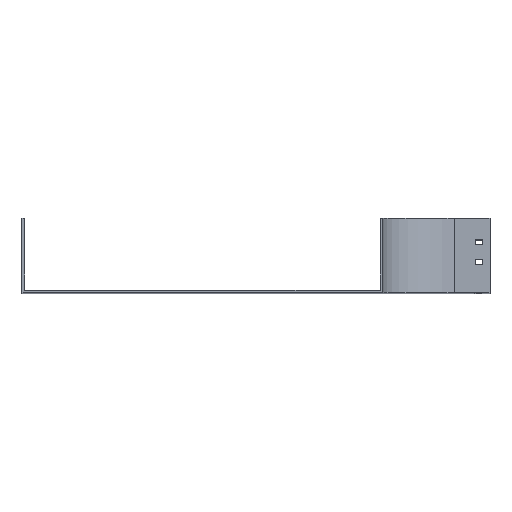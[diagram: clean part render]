
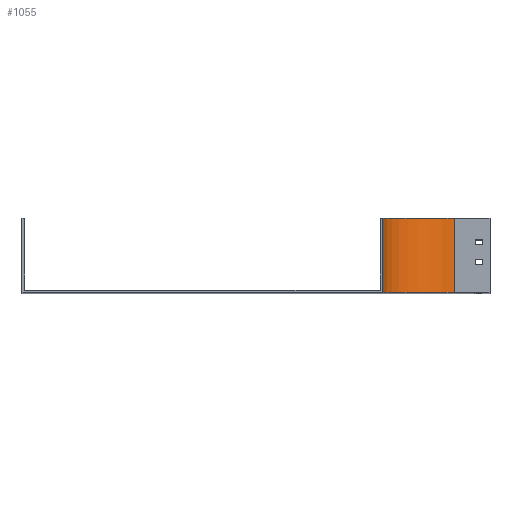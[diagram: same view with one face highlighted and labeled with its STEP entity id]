
A CAD part, top view. The second image highlights one B-rep face of the part: STEP entity #1055.
In plain terms, the highlighted cylindrical face has radius 100 mm (diameter 200 mm), a partial arc.
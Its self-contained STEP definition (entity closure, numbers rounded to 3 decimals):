
#2 = AXIS2_PLACEMENT_3D ( 'NONE', #1598, #2043, #2633 ) ;
#11 = VERTEX_POINT ( 'NONE', #1681 ) ;
#176 = CARTESIAN_POINT ( 'NONE',  ( 0., 104., -100. ) ) ;
#181 = CIRCLE ( 'NONE', #554, 100. ) ;
#198 = VERTEX_POINT ( 'NONE', #812 ) ;
#318 = ORIENTED_EDGE ( 'NONE', *, *, #1105, .T. ) ;
#352 = DIRECTION ( 'NONE',  ( 0., -1., 0. ) ) ;
#404 = VECTOR ( 'NONE', #2225, 1000. ) ;
#455 = EDGE_CURVE ( 'NONE', #2181, #198, #1666, .T. ) ;
#533 = LINE ( 'NONE', #2427, #404 ) ;
#554 = AXIS2_PLACEMENT_3D ( 'NONE', #2304, #352, #1443 ) ;
#633 = ORIENTED_EDGE ( 'NONE', *, *, #455, .T. ) ;
#751 = EDGE_CURVE ( 'NONE', #11, #198, #1742, .T. ) ;
#770 = CARTESIAN_POINT ( 'NONE',  ( -100., 0., 0. ) ) ;
#808 = CYLINDRICAL_SURFACE ( 'NONE', #1889, 100. ) ;
#812 = CARTESIAN_POINT ( 'NONE',  ( 0., 0., -100. ) ) ;
#860 = ORIENTED_EDGE ( 'NONE', *, *, #1650, .F. ) ;
#1046 = FACE_OUTER_BOUND ( 'NONE', #1532, .T. ) ;
#1055 = ADVANCED_FACE ( 'NONE', ( #1046 ), #808, .F. ) ;
#1105 = EDGE_CURVE ( 'NONE', #1912, #2181, #533, .T. ) ;
#1158 = CARTESIAN_POINT ( 'NONE',  ( -100., 104., 0. ) ) ;
#1285 = CARTESIAN_POINT ( 'NONE',  ( 0., 104., 0. ) ) ;
#1443 = DIRECTION ( 'NONE',  ( 0., 0., -1. ) ) ;
#1532 = EDGE_LOOP ( 'NONE', ( #633, #1752, #860, #318 ) ) ;
#1598 = CARTESIAN_POINT ( 'NONE',  ( 0., 0., 0. ) ) ;
#1650 = EDGE_CURVE ( 'NONE', #1912, #11, #181, .T. ) ;
#1666 = CIRCLE ( 'NONE', #2, 100. ) ;
#1681 = CARTESIAN_POINT ( 'NONE',  ( 0., 104., -100. ) ) ;
#1707 = DIRECTION ( 'NONE',  ( 0., -1., 0. ) ) ;
#1742 = LINE ( 'NONE', #176, #1806 ) ;
#1752 = ORIENTED_EDGE ( 'NONE', *, *, #751, .F. ) ;
#1806 = VECTOR ( 'NONE', #1987, 1000. ) ;
#1889 = AXIS2_PLACEMENT_3D ( 'NONE', #1285, #1707, #2548 ) ;
#1912 = VERTEX_POINT ( 'NONE', #1158 ) ;
#1987 = DIRECTION ( 'NONE',  ( 0., -1., 0. ) ) ;
#2043 = DIRECTION ( 'NONE',  ( 0., -1., 0. ) ) ;
#2181 = VERTEX_POINT ( 'NONE', #770 ) ;
#2225 = DIRECTION ( 'NONE',  ( 0., -1., 0. ) ) ;
#2304 = CARTESIAN_POINT ( 'NONE',  ( 0., 104., 0. ) ) ;
#2427 = CARTESIAN_POINT ( 'NONE',  ( -100., 104., 0. ) ) ;
#2548 = DIRECTION ( 'NONE',  ( 0., 0., -1. ) ) ;
#2633 = DIRECTION ( 'NONE',  ( 0., 0., -1. ) ) ;
